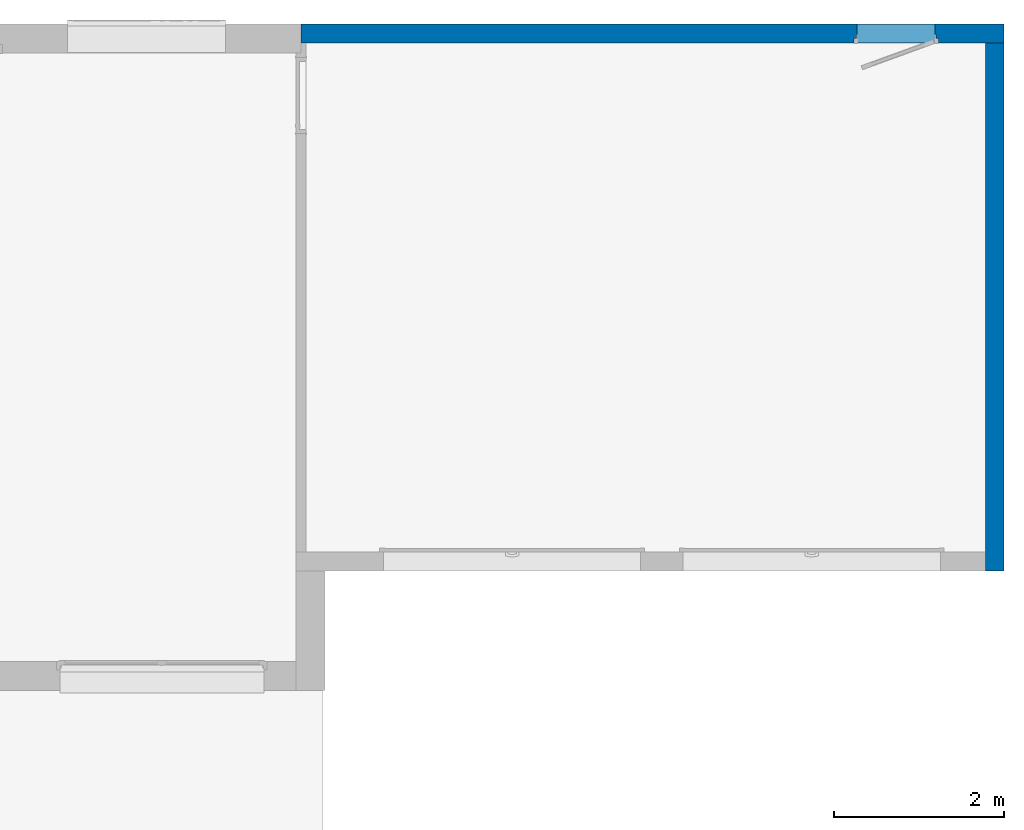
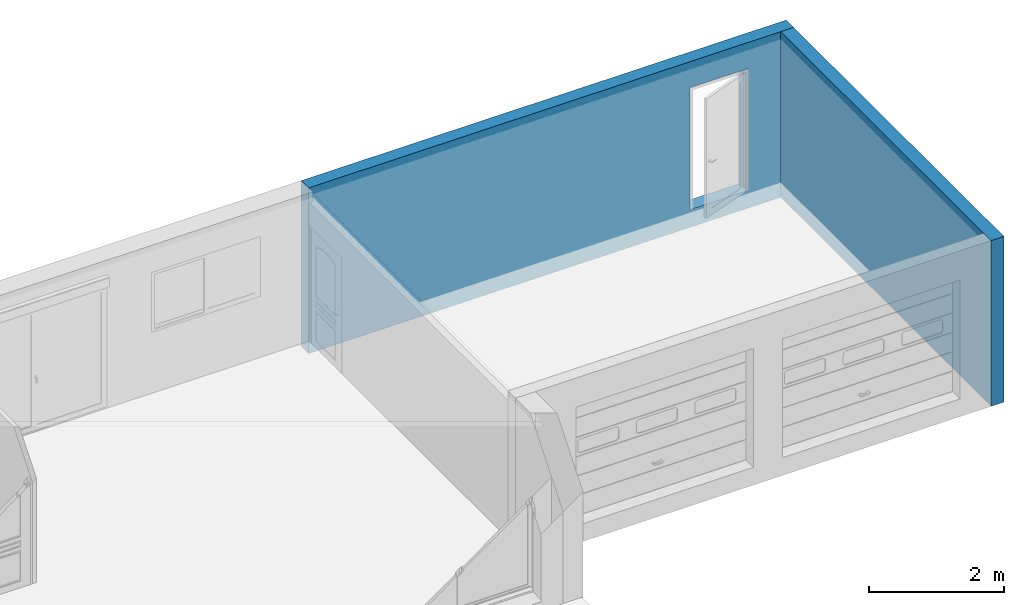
# One storey, part 21 of 23: 2 walls, 1 opening.
"""IFC2X3 building model written with IfcOpenShell, lengths in metres."""

from ifc_helpers import new_model, entity, si_unit, converted_unit, derived_unit, direction, frame, frame_2d, origin, place, context, subcontext, project, spatial, rectangle, extrude, faceted_brep, material, layer, layer_set, layer_usage, type_object, element, save


model = new_model("IFC2X3")

# Units and contexts
model_context = context("Model", 3, precision=1e-05, world=origin(), true_north=direction((6.12303176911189e-17, 1.0)))
body_context = subcontext(model_context, "Body", "Model", "MODEL_VIEW")
ifc_project = project(units=[si_unit("LENGTHUNIT", "METRE"), si_unit("AREAUNIT", "SQUARE_METRE"), si_unit("VOLUMEUNIT", "CUBIC_METRE"), converted_unit("PLANEANGLEUNIT", "DEGREE", entity("IfcRatioMeasure", 0.0174532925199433), si_unit("PLANEANGLEUNIT", "RADIAN"), dimensions=[0, 0, 0, 0, 0, 0, 0]), si_unit("MASSUNIT", "GRAM", prefix="KILO"), derived_unit("MASSDENSITYUNIT", [(si_unit("MASSUNIT", "GRAM", prefix="KILO"), 1), (si_unit("LENGTHUNIT", "METRE"), -3)]), si_unit("TIMEUNIT", "SECOND"), si_unit("FREQUENCYUNIT", "HERTZ"), si_unit("THERMODYNAMICTEMPERATUREUNIT", "DEGREE_CELSIUS"), derived_unit("THERMALTRANSMITTANCEUNIT", [(si_unit("MASSUNIT", "GRAM", prefix="KILO"), 1), (si_unit("THERMODYNAMICTEMPERATUREUNIT", "KELVIN"), -1), (si_unit("TIMEUNIT", "SECOND"), -3)]), derived_unit("VOLUMETRICFLOWRATEUNIT", [(si_unit("LENGTHUNIT", "METRE"), 3), (si_unit("TIMEUNIT", "SECOND"), -1)]), si_unit("ELECTRICCURRENTUNIT", "AMPERE"), si_unit("ELECTRICVOLTAGEUNIT", "VOLT"), si_unit("POWERUNIT", "WATT"), si_unit("FORCEUNIT", "NEWTON", prefix="KILO"), si_unit("ILLUMINANCEUNIT", "LUX"), si_unit("LUMINOUSFLUXUNIT", "LUMEN"), si_unit("LUMINOUSINTENSITYUNIT", "CANDELA"), derived_unit("USERDEFINED", [(si_unit("MASSUNIT", "GRAM", prefix="KILO"), -1), (si_unit("LENGTHUNIT", "METRE"), -2), (si_unit("TIMEUNIT", "SECOND"), 3), (si_unit("LUMINOUSFLUXUNIT", "LUMEN"), 1)]), derived_unit("LINEARVELOCITYUNIT", [(si_unit("LENGTHUNIT", "METRE"), 1), (si_unit("TIMEUNIT", "SECOND"), -1)]), si_unit("PRESSUREUNIT", "PASCAL"), derived_unit("USERDEFINED", [(si_unit("LENGTHUNIT", "METRE"), -2), (si_unit("MASSUNIT", "GRAM", prefix="KILO"), 1), (si_unit("TIMEUNIT", "SECOND"), -2)])], contexts=[model_context])

# Site, building, storey
site_placement = place(None, origin())
site = spatial("IfcSite", under=ifc_project, at=site_placement, Name="Default", CompositionType="ELEMENT")
building_placement = place(site_placement, origin())
building = spatial("IfcBuilding", under=site, at=building_placement, CompositionType="ELEMENT")
storey_placement = place(building_placement, origin())
storey = spatial("IfcBuildingStorey", under=building, at=storey_placement, Name="2 - Rez de Chaussée", CompositionType="ELEMENT", Elevation=-1.94916083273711e-14)

# Wall
ifc_material_1 = material(Name="Maçonnerie - Enduit")
ifc_layer_1 = layer(ifc_material_1, 0.02)
ifc_material_2 = material(Name="Blocs béton manufacturés")
ifc_layer_2 = layer(ifc_material_2, 0.2)
ifc_layer_set = layer_set([ifc_layer_1, ifc_layer_2], Name="Mur de base:Parpaing 20 Enduit 2")
ifc_layer_usage_1 = layer_usage(ifc_layer_set, "AXIS2", "NEGATIVE", 0.11)
wall_type = type_object("IfcWallType", Name="Mur de base:Parpaing 20 Enduit 2", PredefinedType="STANDARD", material=ifc_layer_set)
wall_1_placement = place(storey_placement, frame((13.4137775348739, 6.4180550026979, -0.32), z_axis=(0.0, 0.0, 1.0), x_axis=(0.0, -1.0, 0.0)))
element("IfcWallStandardCase", 1, at=wall_1_placement, inside=storey, type_object=wall_type, material=ifc_layer_usage_1, Name="Mur de base:Parpaing 20 Enduit 2", ObjectType="Mur de base:Parpaing 20 Enduit 2", context=body_context, shape_type="SweptSolid", body=[
    extrude(rectangle(XDim=6.21999999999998, YDim=0.220000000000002, at=frame_2d((3.10999999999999, 0.0), x_axis=(-1.0, 0.0))), origin(), (0.0, 0.0, 1.0), 2.99000000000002),
])

# Wall, opening
ifc_layer_usage_2 = layer_usage(ifc_layer_set, "AXIS2", "NEGATIVE", 0.11)
wall_2_placement = place(storey_placement, frame((5.24377753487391, 6.52805500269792, -0.32)))
wall_2 = element("IfcWallStandardCase", 2, at=wall_2_placement, inside=storey, type_object=wall_type, material=ifc_layer_usage_2, Name="Mur de base:Parpaing 20 Enduit 2", ObjectType="Mur de base:Parpaing 20 Enduit 2", context=body_context, shape_type="SweptSolid", body=[
    extrude(rectangle(XDim=8.28, YDim=0.22, at=frame_2d((4.14, 7.63278329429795e-17), x_axis=(-1.0, 0.0))), origin(), (0.0, 0.0, 1.0), 2.99000000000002),
])
opening_placement = place(wall_2_placement, frame((6.51000000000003, -0.410000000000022, 0.32)))
element("IfcOpeningElement", 3, at=opening_placement, cuts=wall_2, Name="Mur de base:Parpaing 20 Enduit 2", ObjectType="Opening", context=body_context, shape_type="Brep", body=[
    faceted_brep([(0.960000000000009, 0.0, 2.15999999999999), (0.960000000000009, 0.292000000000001, 2.15999999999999), (0.0400000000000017, 0.292000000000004, 2.15999999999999), (0.0399999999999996, 0.0, 2.15999999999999), (0.960000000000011, 0.820000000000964, 0.0), (0.960000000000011, 0.400000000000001, 0.0), (0.969999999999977, 0.400000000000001, 0.0), (0.969999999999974, 0.352000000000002, 0.0), (1.0, 0.352000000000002, 0.0), (1.0, 0.292000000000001, 0.0), (0.959999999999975, 0.292000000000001, 0.0), (0.960000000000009, 0.0, 0.0), (0.0399999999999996, 0.0, 0.0), (0.0400000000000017, 0.292000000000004, 0.0), (0.0, 0.292000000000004, 0.0), (0.0, 0.352000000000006, 0.0), (0.0300000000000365, 0.352000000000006, 0.0), (0.0300000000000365, 0.400000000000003, 0.0), (0.0400000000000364, 0.400000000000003, 0.0), (0.0400000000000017, 0.820000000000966, 0.0), (0.960000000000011, 0.820000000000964, 2.15999999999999), (0.960000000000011, 0.400000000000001, 2.15999999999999), (0.0400000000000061, 0.820000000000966, 2.15999999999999), (0.0, 0.352000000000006, 2.2), (1.0, 0.352000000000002, 2.2), (0.969999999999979, 0.352000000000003, 2.16999999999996), (0.0300000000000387, 0.352000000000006, 2.16999999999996), (0.0300000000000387, 0.400000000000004, 2.16999999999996), (0.969999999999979, 0.400000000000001, 2.16999999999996), (0.0400000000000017, 0.400000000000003, 2.15999999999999), (1.0, 0.292000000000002, 2.2), (0.0, 0.292000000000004, 2.2)], [[[0, 1, 2, 3]], [[4, 5, 6, 7, 8, 9, 10, 11, 12, 13, 14, 15, 16, 17, 18, 19]], [[20, 21, 5, 4]], [[20, 4, 19, 22]], [[3, 2, 13, 12]], [[3, 12, 11, 0]], [[15, 23, 24, 8, 7, 25, 26, 16]], [[16, 26, 27, 17]], [[17, 27, 28, 6, 5, 21, 29, 18]], [[13, 2, 1, 10, 9, 30, 31, 14]], [[14, 31, 23, 15]], [[25, 28, 27, 26]], [[23, 31, 30, 24]], [[7, 6, 28, 25]], [[24, 30, 9, 8]], [[19, 18, 29, 22]], [[11, 10, 1, 0]], [[22, 29, 21, 20]]]),
])

save(model, "model.ifc")
